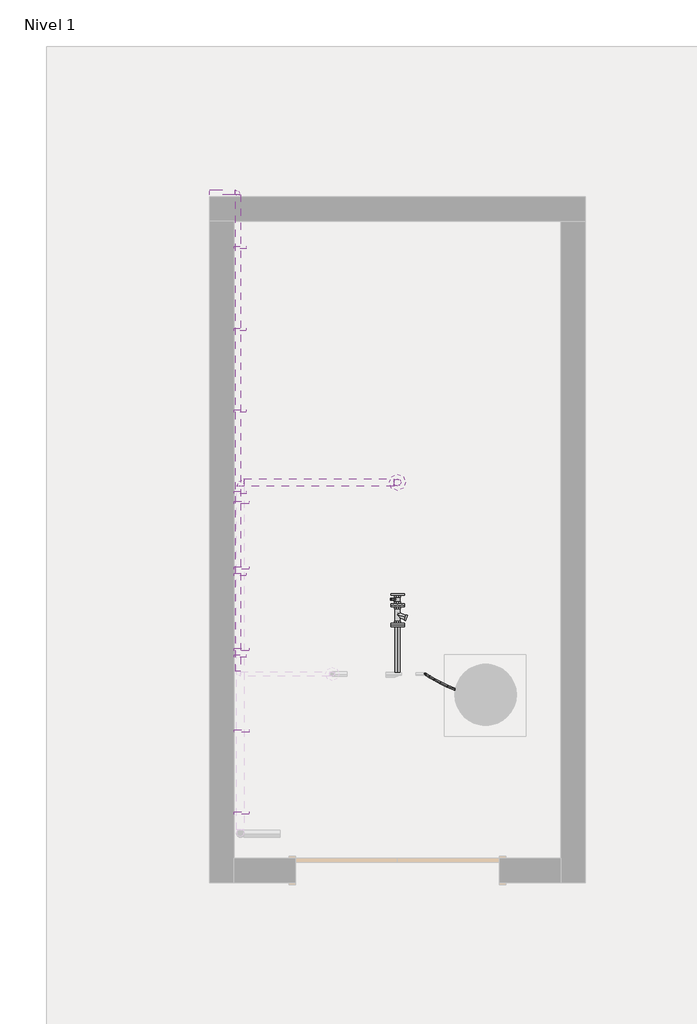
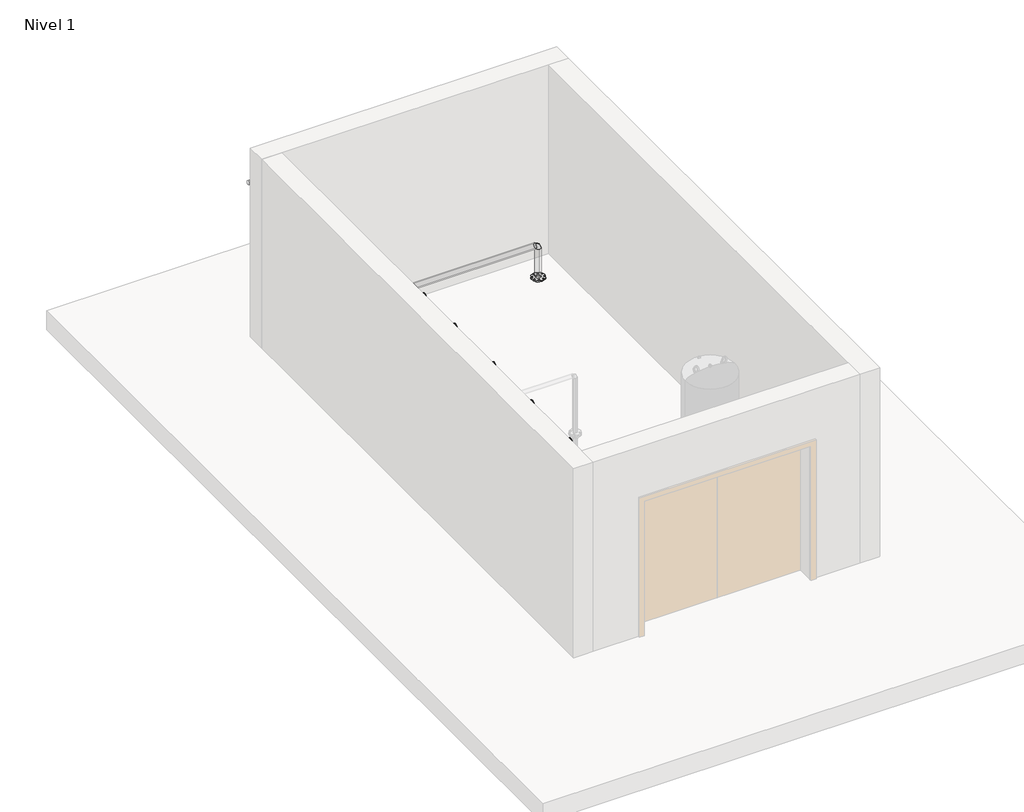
# One storey, part 2 of 2: 11 proxies, 8 pipe fittings, 8 pipe segments, 2 valves.
"""IFC4 building model written with IfcOpenShell, lengths in millimetres."""

from ifc_helpers import new_model, si_unit, point, frame, frame_2d, origin, place, context, project, spatial, circle_curve, ellipse_curve, trimmed, segment, composite_curve, outline, extrude, transform, mapped, element, save
from ifc_brep_helpers import plane_surface, cylinder_surface, advanced_brep
from components import generic_models_3b980cd4, generic_models_2fe8da2b, pipe_fitting_3f4206e3, pipe_fitting_36ea70a5, pipe_fitting_f94741dc, pipe_fitting_a088f956, pipe_fitting_55f5cc9a, pipe_fitting_80_mm_63556b00, brida_acero_dn_50_mm_4_tornillos_50_mm_0a0b1a1b, valve_1_31c7c6c1, valve_1_e48f4d86

model = new_model("IFC4")

# Units and contexts
model_context = context("Model", 3, world=origin())
ifc_project = project(units=[si_unit("LENGTHUNIT", "METRE", prefix="MILLI")], contexts=[model_context])

# Site, building, storey
site = spatial("IfcSite", under=ifc_project)
building = spatial("IfcBuilding", under=site)
storey = spatial("IfcBuildingStorey", under=building, Name="Nivel 1", Elevation=0.0)

# Proxies
placement = place(None, origin())
generic_models_shape = generic_models_3b980cd4(model_context)
element("IfcBuildingElementProxy", 1, Name="SUJECCIÓN DE TUBERÍA : SUJECCIÓN DE TUBERÍA D-50", ObjectType="SUJECCIÓN DE TUBERÍA : SUJECCIÓN DE TUBERÍA D-50", at=placement, inside=storey, context=model_context, shape_type="MappedRepresentation", body=[
    mapped(generic_models_shape, transform((-3338.4941846, 3063.2271959, 2383.1388859), x_axis=(0.0, 1.0000000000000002, 0.0), y_axis=(-1.0000000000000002, 0.0, 0.0), z_axis=(0.0, 0.0, 1.0))),
])
element("IfcBuildingElementProxy", 2, Name="SUJECCIÓN DE TUBERÍA : SUJECCIÓN DE TUBERÍA D-50", ObjectType="SUJECCIÓN DE TUBERÍA : SUJECCIÓN DE TUBERÍA D-50", at=placement, inside=storey, context=model_context, shape_type="MappedRepresentation", body=[
    mapped(generic_models_shape, transform((-3338.4941846, 4063.2271959, 2383.1388859), x_axis=(0.0, 1.0000000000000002, 0.0), y_axis=(-1.0000000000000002, 0.0, 0.0), z_axis=(0.0, 0.0, 1.0))),
])
element("IfcBuildingElementProxy", 3, Name="SUJECCIÓN DE TUBERÍA : SUJECCIÓN DE TUBERÍA D-50", ObjectType="SUJECCIÓN DE TUBERÍA : SUJECCIÓN DE TUBERÍA D-50", at=placement, inside=storey, context=model_context, shape_type="MappedRepresentation", body=[
    mapped(generic_models_shape, transform((-3338.4941846, 5063.2271959, 2383.1388859), x_axis=(0.0, 1.0000000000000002, 0.0), y_axis=(-1.0000000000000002, 0.0, 0.0), z_axis=(0.0, 0.0, 1.0))),
])
element("IfcBuildingElementProxy", 4, Name="SUJECCIÓN DE TUBERÍA : SUJECCIÓN DE TUBERÍA D-50", ObjectType="SUJECCIÓN DE TUBERÍA : SUJECCIÓN DE TUBERÍA D-50", at=placement, inside=storey, context=model_context, shape_type="MappedRepresentation", body=[
    mapped(generic_models_shape, transform((-3338.4941846, 6063.2271959, 2383.1388859), x_axis=(0.0, 1.0000000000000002, 0.0), y_axis=(-1.0000000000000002, 0.0, 0.0), z_axis=(0.0, 0.0, 1.0))),
])
element("IfcBuildingElementProxy", 5, Name="SUJECCIÓN DE TUBERÍA : SUJECCIÓN DE TUBERÍA D-50", ObjectType="SUJECCIÓN DE TUBERÍA : SUJECCIÓN DE TUBERÍA D-50", at=placement, inside=storey, context=model_context, shape_type="MappedRepresentation", body=[
    mapped(generic_models_shape, transform((-3338.4941846, 7063.2271959, 2383.1388859), x_axis=(0.0, 1.0000000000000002, 0.0), y_axis=(-1.0000000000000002, 0.0, 0.0), z_axis=(0.0, 0.0, 1.0))),
])
element("IfcBuildingElementProxy", 6, Name="SUJECCIÓN DE TUBERÍA : SUJECCIÓN DE TUBERÍA D-50", ObjectType="SUJECCIÓN DE TUBERÍA : SUJECCIÓN DE TUBERÍA D-50", at=placement, inside=storey, context=model_context, shape_type="MappedRepresentation", body=[
    mapped(generic_models_shape, transform((-3338.4941846, 8063.2271959, 2383.1388859), x_axis=(0.0, 1.0000000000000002, 0.0), y_axis=(-1.0000000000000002, 0.0, 0.0), z_axis=(0.0, 0.0, 1.0))),
])
generic_models_2_shape = generic_models_2fe8da2b(model_context)
element("IfcBuildingElementProxy", 7, Name="SUJECCIÓN DE TUBERÍA : SUJECCIÓN DE TUBERÍA D-50", ObjectType="SUJECCIÓN DE TUBERÍA : SUJECCIÓN DE TUBERÍA D-50", at=placement, inside=storey, context=model_context, shape_type="MappedRepresentation", body=[
    mapped(generic_models_2_shape, transform((-3300.1093807, 1143.2271959, 2736.7551063), x_axis=(0.0, 1.0000000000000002, 0.0), y_axis=(-1.0000000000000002, 0.0, 0.0), z_axis=(0.0, 0.0, 1.0))),
])
element("IfcBuildingElementProxy", 8, Name="SUJECCIÓN DE TUBERÍA : SUJECCIÓN DE TUBERÍA D-50", ObjectType="SUJECCIÓN DE TUBERÍA : SUJECCIÓN DE TUBERÍA D-50", at=placement, inside=storey, context=model_context, shape_type="MappedRepresentation", body=[
    mapped(generic_models_2_shape, transform((-3300.1093807, 2143.2271959, 2736.7551063), x_axis=(0.0, 1.0000000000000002, 0.0), y_axis=(-1.0000000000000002, 0.0, 0.0), z_axis=(0.0, 0.0, 1.0))),
])
element("IfcBuildingElementProxy", 9, Name="SUJECCIÓN DE TUBERÍA : SUJECCIÓN DE TUBERÍA D-50", ObjectType="SUJECCIÓN DE TUBERÍA : SUJECCIÓN DE TUBERÍA D-50", at=placement, inside=storey, context=model_context, shape_type="MappedRepresentation", body=[
    mapped(generic_models_2_shape, transform((-3300.1093807, 3143.2271959, 2736.7551063), x_axis=(0.0, 1.0000000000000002, 0.0), y_axis=(-1.0000000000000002, 0.0, 0.0), z_axis=(0.0, 0.0, 1.0))),
])
element("IfcBuildingElementProxy", 10, Name="SUJECCIÓN DE TUBERÍA : SUJECCIÓN DE TUBERÍA D-50", ObjectType="SUJECCIÓN DE TUBERÍA : SUJECCIÓN DE TUBERÍA D-50", at=placement, inside=storey, context=model_context, shape_type="MappedRepresentation", body=[
    mapped(generic_models_2_shape, transform((-3300.1093807, 4143.2271959, 2736.7551063), x_axis=(0.0, 1.0000000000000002, 0.0), y_axis=(-1.0000000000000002, 0.0, 0.0), z_axis=(0.0, 0.0, 1.0))),
])
element("IfcBuildingElementProxy", 11, Name="SUJECCIÓN DE TUBERÍA : SUJECCIÓN DE TUBERÍA D-50", ObjectType="SUJECCIÓN DE TUBERÍA : SUJECCIÓN DE TUBERÍA D-50", at=placement, inside=storey, context=model_context, shape_type="MappedRepresentation", body=[
    mapped(generic_models_2_shape, transform((-3300.1093807, 4943.2271959, 2736.7551063), x_axis=(0.0, 1.0000000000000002, 0.0), y_axis=(-1.0000000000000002, 0.0, 0.0), z_axis=(0.0, 0.0, 1.0))),
])

# Pipe fittings
pipe_fitting_shape = pipe_fitting_3f4206e3(model_context)
element("IfcPipeFitting", 12, ObjectType="M_Codo - Genérico : Estándar", at=placement, inside=storey, context=model_context, shape_type="MappedRepresentation", body=[
    mapped(pipe_fitting_shape, transform((-1226.867126, 5203.2271959, 2780.0), x_axis=(0.0, 0.0, 1.0), y_axis=(-1.0, 0.0, 0.0), z_axis=(0.0, -1.0, 0.0))),
])
element("IfcPipeFitting", 13, ObjectType="M_Codo - Genérico : Estándar", at=placement, inside=storey, context=model_context, shape_type="MappedRepresentation", body=[
    mapped(pipe_fitting_shape, transform((-3151.867126, 5203.2271959, 2780.0), x_axis=(-1.0, 0.0, 0.0), y_axis=(0.0, -1.0, 0.0), z_axis=(0.0, 0.0, 1.0))),
])
pipe_fitting_2_shape = pipe_fitting_36ea70a5(model_context)
element("IfcPipeFitting", 14, ObjectType="M_Codo - Genérico : Estándar", at=placement, inside=storey, context=model_context, shape_type="MappedRepresentation", body=[
    mapped(pipe_fitting_2_shape, transform((-3181.867126, 8758.2242167, 2414.0), x_axis=(0.0, 1.0, 0.0), y_axis=(-1.0, 0.0, 0.0), z_axis=(0.0, 0.0, 1.0))),
])
pipe_fitting_3_shape = pipe_fitting_f94741dc(model_context)
element("IfcPipeFitting", 15, ObjectType="M_Transición - Genérica : Estándar", at=placement, inside=storey, context=model_context, shape_type="MappedRepresentation", body=[
    mapped(pipe_fitting_3_shape, transform((-146.867126, 2603.2271959, 775.0), x_axis=(0.0, 0.0, 1.0), y_axis=(-1.0, 0.0, 0.0), z_axis=(0.0, -1.0, 0.0))),
])
pipe_fitting_4_shape = pipe_fitting_a088f956(model_context)
element("IfcPipeFitting", 16, ObjectType="M_Codo - Genérico : Estándar", at=placement, inside=storey, context=model_context, shape_type="MappedRepresentation", body=[
    mapped(pipe_fitting_4_shape, transform((-146.867126, 2603.2271959, 695.0), x_axis=(0.0, 0.0, -1.0), y_axis=(-1.0, 0.0, 0.0), z_axis=(0.0, 1.0, 0.0))),
])
pipe_fitting_5_shape = pipe_fitting_55f5cc9a(model_context)
element("IfcPipeFitting", 17, ObjectType="M_Transición - Genérica : Estándar", at=placement, inside=storey, context=model_context, shape_type="MappedRepresentation", body=[
    mapped(pipe_fitting_5_shape, transform((-255.3253371, 2603.2271959, 695.0), x_axis=(-1.0, 0.0, 0.0), y_axis=(0.0, -1.0, 0.0), z_axis=(0.0, 0.0, 1.0))),
])
pipe_fitting_80_mm_shape = pipe_fitting_80_mm_63556b00(model_context)
element("IfcPipeFitting", 18, ObjectType="BRIDA ACERO  DN_80 : 80 mm", at=placement, inside=storey, context=model_context, shape_type="MappedRepresentation", body=[
    mapped(pipe_fitting_80_mm_shape, transform((-1226.867126, 5203.2271959, 2280.0), x_axis=(0.0, 0.0, -1.0), y_axis=(0.0, 1.0, 0.0), z_axis=(1.0, 0.0, 0.0))),
])
brida_acero_dn_50_mm_4_tornillos_50_mm_shape = brida_acero_dn_50_mm_4_tornillos_50_mm_0a0b1a1b(model_context)
element("IfcPipeFitting", 19, ObjectType="BRIDA ACERO DN 50 mm 4 tornillos : 50 mm", at=placement, inside=storey, context=model_context, shape_type="MappedRepresentation", body=[
    mapped(brida_acero_dn_50_mm_4_tornillos_50_mm_shape, transform((-1226.867126, 3438.5841177, 160.0), x_axis=(0.0, 1.0, 0.0), y_axis=(-1.0, 0.0, 0.0), z_axis=(0.0, 0.0, 1.0))),
])

# Pipe segments
element("IfcPipeSegment", 20, ObjectType="ACERO INOX", at=placement, inside=storey, context=model_context, shape_type="SweptSolid", body=[
    extrude(outline(composite_curve([segment(trimmed(circle_curve(frame_2d((-1226.867126, 5203.2271959)), 44.45), [point((-1271.317126, 5203.2271959))], [point((-1226.867126, 5247.6771959))], False, "CARTESIAN"), True, "CONTINUOUS"), segment(trimmed(circle_curve(frame_2d((-1226.867126, 5203.2271959)), 44.45), [point((-1226.867126, 5247.6771959))], [point((-1182.417126, 5203.2271959))], False, "CARTESIAN"), True, "CONTINUOUS"), segment(trimmed(circle_curve(frame_2d((-1226.867126, 5203.2271959)), 44.45), [point((-1182.417126, 5203.2271959))], [point((-1226.867126, 5158.7771959))], False, "CARTESIAN"), True, "CONTINUOUS"), segment(trimmed(circle_curve(frame_2d((-1226.867126, 5203.2271959)), 44.45), [point((-1226.867126, 5158.7771959))], [point((-1271.317126, 5203.2271959))], False, "CARTESIAN"), True, "CONTINUOUS")], self_intersect=False)), frame((0.0, 0.0, 2280.0), z_axis=(0.0, 0.0, 1.0), x_axis=(1.0, 0.0, 0.0)), (0.0, 0.0, 1.0), 453.9625),
])
element("IfcPipeSegment", 21, ObjectType="ACERO INOX", at=placement, inside=storey, context=model_context, shape_type="SweptSolid", body=[
    extrude(outline(composite_curve([segment(trimmed(circle_curve(frame_2d((5203.2271959, 2780.0)), 44.45), [point((5247.6771959, 2780.0))], [point((5203.2271959, 2735.55))], False, "CARTESIAN"), True, "CONTINUOUS"), segment(trimmed(circle_curve(frame_2d((5203.2271959, 2780.0)), 44.45), [point((5203.2271959, 2735.55))], [point((5158.7771959, 2780.0))], False, "CARTESIAN"), True, "CONTINUOUS"), segment(trimmed(circle_curve(frame_2d((5203.2271959, 2780.0)), 44.45), [point((5158.7771959, 2780.0))], [point((5203.2271959, 2824.45))], False, "CARTESIAN"), True, "CONTINUOUS"), segment(trimmed(circle_curve(frame_2d((5203.2271959, 2780.0)), 44.45), [point((5203.2271959, 2824.45))], [point((5247.6771959, 2780.0))], False, "CARTESIAN"), True, "CONTINUOUS")], self_intersect=False)), frame((-3105.829626, 0.0, 0.0), z_axis=(1.0, 0.0, 0.0), x_axis=(0.0, 1.0, 0.0)), (0.0, 0.0, 1.0), 1832.925),
])
element("IfcPipeSegment", 22, ObjectType="ACERO INOX", at=placement, inside=storey, context=model_context, shape_type="SweptSolid", body=[
    extrude(outline(composite_curve([segment(trimmed(circle_curve(frame_2d((160.0, -1226.867126)), 30.1625), [point((160.0, -1257.029626))], [point((129.8375, -1226.867126))], False, "CARTESIAN"), True, "CONTINUOUS"), segment(trimmed(circle_curve(frame_2d((160.0, -1226.867126)), 30.1625), [point((129.8375, -1226.867126))], [point((160.0, -1196.704626))], False, "CARTESIAN"), True, "CONTINUOUS"), segment(trimmed(circle_curve(frame_2d((160.0, -1226.867126)), 30.1625), [point((160.0, -1196.704626))], [point((190.1625, -1226.867126))], False, "CARTESIAN"), True, "CONTINUOUS"), segment(trimmed(circle_curve(frame_2d((160.0, -1226.867126)), 30.1625), [point((190.1625, -1226.867126))], [point((160.0, -1257.029626))], False, "CARTESIAN"), True, "CONTINUOUS")], self_intersect=False)), frame((0.0, 2881.5617167, 0.0), z_axis=(0.0, 1.0, 0.0), x_axis=(0.0, 0.0, 1.0)), (0.0, 0.0, 1.0), 557.022401),
])
element("IfcPipeSegment", 23, ObjectType="ACERO INOX", at=placement, inside=storey, context=model_context, shape_type="SweptSolid", body=[
    extrude(outline(composite_curve([segment(trimmed(circle_curve(frame_2d((2414.0, -3181.867126)), 30.1625), [point((2414.0, -3151.704626))], [point((2444.1625, -3181.867126))], False, "CARTESIAN"), True, "CONTINUOUS"), segment(trimmed(circle_curve(frame_2d((2414.0, -3181.867126)), 30.1625), [point((2444.1625, -3181.867126))], [point((2414.0, -3212.029626))], False, "CARTESIAN"), True, "CONTINUOUS"), segment(trimmed(circle_curve(frame_2d((2414.0, -3181.867126)), 30.1625), [point((2414.0, -3212.029626))], [point((2383.8375, -3181.867126))], False, "CARTESIAN"), True, "CONTINUOUS"), segment(trimmed(circle_curve(frame_2d((2414.0, -3181.867126)), 30.1625), [point((2383.8375, -3181.867126))], [point((2414.0, -3151.704626))], False, "CARTESIAN"), True, "CONTINUOUS")], self_intersect=False)), frame((0.0, 2891.5617167, 0.0), z_axis=(0.0, 1.0, 0.0), x_axis=(0.0, 0.0, 1.0)), (0.0, 0.0, 1.0), 5833.325),
])
element("IfcPipeSegment", 24, ObjectType="ACERO INOX", at=placement, inside=storey, context=model_context, shape_type="SweptSolid", body=[
    extrude(outline(composite_curve([segment(trimmed(circle_curve(frame_2d((8758.2242167, 2414.0)), 30.1625), [point((8788.3867167, 2414.0))], [point((8758.2242167, 2383.8375))], False, "CARTESIAN"), True, "CONTINUOUS"), segment(trimmed(circle_curve(frame_2d((8758.2242167, 2414.0)), 30.1625), [point((8758.2242167, 2383.8375))], [point((8728.0617167, 2414.0))], False, "CARTESIAN"), True, "CONTINUOUS"), segment(trimmed(circle_curve(frame_2d((8758.2242167, 2414.0)), 30.1625), [point((8728.0617167, 2414.0))], [point((8758.2242167, 2444.1625))], False, "CARTESIAN"), True, "CONTINUOUS"), segment(trimmed(circle_curve(frame_2d((8758.2242167, 2414.0)), 30.1625), [point((8758.2242167, 2444.1625))], [point((8788.3867167, 2414.0))], False, "CARTESIAN"), True, "CONTINUOUS")], self_intersect=False)), frame((-3526.867126, 0.0, 0.0), z_axis=(1.0, 0.0, 0.0), x_axis=(0.0, 1.0, 0.0)), (0.0, 0.0, 1.0), 311.6625),
])
element("IfcPipeSegment", 25, ObjectType="ACERO INOX", at=placement, inside=storey, context=model_context, shape_type="SweptSolid", body=[
    extrude(outline(composite_curve([segment(trimmed(circle_curve(frame_2d((-146.867126, 2603.2271959)), 10.668), [point((-136.199126, 2603.2271959))], [point((-146.867126, 2592.5591959))], False, "CARTESIAN"), True, "CONTINUOUS"), segment(trimmed(circle_curve(frame_2d((-146.867126, 2603.2271959)), 10.668), [point((-146.867126, 2592.5591959))], [point((-157.535126, 2603.2271959))], False, "CARTESIAN"), True, "CONTINUOUS"), segment(trimmed(circle_curve(frame_2d((-146.867126, 2603.2271959)), 10.668), [point((-157.535126, 2603.2271959))], [point((-146.867126, 2613.8951959))], False, "CARTESIAN"), True, "CONTINUOUS"), segment(trimmed(circle_curve(frame_2d((-146.867126, 2603.2271959)), 10.668), [point((-146.867126, 2613.8951959))], [point((-136.199126, 2603.2271959))], False, "CARTESIAN"), True, "CONTINUOUS")], self_intersect=False)), frame((0.0, 0.0, 709.2875), z_axis=(0.0, 0.0, 1.0), x_axis=(1.0, 0.0, 0.0)), (0.0, 0.0, 1.0), 65.7125),
])
element("IfcPipeSegment", 26, ObjectType="ACERO INOX", at=placement, inside=storey, context=model_context, shape_type="SweptSolid", body=[
    extrude(outline(composite_curve([segment(trimmed(circle_curve(frame_2d((2603.2271959, 695.0)), 10.668), [point((2613.8951959, 695.0))], [point((2603.2271959, 684.332))], False, "CARTESIAN"), True, "CONTINUOUS"), segment(trimmed(circle_curve(frame_2d((2603.2271959, 695.0)), 10.668), [point((2603.2271959, 684.332))], [point((2592.5591959, 695.0))], False, "CARTESIAN"), True, "CONTINUOUS"), segment(trimmed(circle_curve(frame_2d((2603.2271959, 695.0)), 10.668), [point((2592.5591959, 695.0))], [point((2603.2271959, 705.668))], False, "CARTESIAN"), True, "CONTINUOUS"), segment(trimmed(circle_curve(frame_2d((2603.2271959, 695.0)), 10.668), [point((2603.2271959, 705.668))], [point((2613.8951959, 695.0))], False, "CARTESIAN"), True, "CONTINUOUS")], self_intersect=False)), frame((-255.3253371, 0.0, 0.0), z_axis=(1.0, 0.0, 0.0), x_axis=(0.0, 1.0, 0.0)), (0.0, 0.0, 1.0), 94.1707112),
])
element("IfcPipeSegment", 27, ObjectType="Flex - Redondo", at=placement, inside=storey, context=model_context, shape_type="AdvancedBrep", body=[
    advanced_brep(
    [(-263.8015208, 2590.7984139, 695.0), (-262.979236, 2603.2818866, 682.5105342), (-261.1366535, 2615.6559778, 695.0), (-261.9589383, 2603.1725051, 707.4894658), (-346.300171, 2599.6427224, 698.408496), (-344.8136521, 2612.0549855, 685.8915868), (-341.7780362, 2624.301177, 698.3317616), (-343.2645551, 2611.8889138, 710.8486707), (-893.3935963, 2847.5632981, 574.0), (-897.5280446, 2864.750687, 574.0), (-880.3406557, 2868.8851353, 574.0), (-876.2062074, 2851.6977464, 574.0), (-437.1173259, 2623.4648521, 706.2134332), (-434.4317608, 2635.562595, 693.5934765), (-429.6506484, 2647.3509276, 705.8836411), (-432.3362135, 2635.2531847, 718.5035978), (-530.533786, 2657.7375783, 714.6364716), (-526.7571179, 2669.4350163, 701.9181339), (-521.1968485, 2680.9374909, 714.1380447), (-524.9735166, 2669.2400529, 726.8563824), (-622.1586406, 2698.2488483, 720.0255041), (-617.1901524, 2709.4193316, 707.237068), (-611.530706, 2720.8779558, 719.4511456), (-616.4991942, 2709.7074726, 732.2395816), (-707.4749794, 2740.8116115, 718.7337215), (-700.9749376, 2751.2180306, 705.9684748), (-695.8922904, 2762.9644095, 718.173819), (-702.3923322, 2752.5579903, 730.9390657), (-781.902101, 2781.236802, 707.1082574), (-773.1509575, 2790.4205322, 694.6946313), (-769.5854619, 2802.9909539, 706.6629974), (-778.3366055, 2793.8072237, 719.0766236), (-840.8058985, 2815.3173905, 681.4951181), (-828.5972151, 2822.5006556, 670.5849341), (-827.9674865, 2836.7696548, 681.2767407), (-840.1761699, 2829.5863898, 692.1869247), (-879.4973981, 2838.8166436, 638.2995183), (-863.4424968, 2843.6639111, 631.6832926), (-866.450497, 2860.1422822, 638.3139002), (-882.5053983, 2855.2950146, 644.9301259), (-893.3935963, 2847.5632981, 577.0713435), (-876.2062074, 2851.6977464, 575.4449825), (-880.3406557, 2868.8851353, 577.1123361), (-897.5280446, 2864.750687, 578.7386971)],
    [
        (0, 1, circle_curve(frame((-262.4690871, 2603.2271959, 695.0), z_axis=(0.9934646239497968, -0.10650486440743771, -0.04104576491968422), x_axis=(-0.10659469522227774, -0.9943025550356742, 0.0)), 12.5)),
        (1, 2, circle_curve(frame((-262.4690871, 2603.2271959, 695.0), z_axis=(0.9934646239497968, -0.10650486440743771, -0.04104576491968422), x_axis=(-0.10659469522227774, -0.9943025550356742, 0.0)), 12.5)),
        (2, 3, circle_curve(frame((-262.4690871, 2603.2271959, 695.0), z_axis=(0.9934646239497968, -0.10650486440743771, -0.04104576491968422), x_axis=(-0.10659469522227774, -0.9943025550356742, 0.0)), 12.5)),
        (3, 0, circle_curve(frame((-262.4690871, 2603.2271959, 695.0), z_axis=(0.9934646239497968, -0.10650486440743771, -0.04104576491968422), x_axis=(-0.10659469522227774, -0.9943025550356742, 0.0)), 12.5)),
        (0, 4),
        (4, 5, ellipse_curve(frame((-344.0391036, 2611.9719497, 698.3701288), z_axis=(0.9816618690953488, -0.18022114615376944, -0.062131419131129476), x_axis=(0.19036470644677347, 0.9439687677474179, 0.26960015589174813)), 12.537726, 12.5)),
        (5, 1),
        (5, 6, ellipse_curve(frame((-344.0391036, 2611.9719497, 698.3701288), z_axis=(0.9816618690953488, -0.18022114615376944, -0.062131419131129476), x_axis=(0.19036470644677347, 0.9439687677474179, 0.26960015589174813)), 12.537726, 12.5)),
        (6, 2),
        (6, 7, ellipse_curve(frame((-344.0391036, 2611.9719497, 698.3701288), z_axis=(0.9816618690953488, -0.18022114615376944, -0.062131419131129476), x_axis=(0.19036470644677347, 0.9439687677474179, 0.26960015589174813)), 12.537726, 12.5)),
        (7, 3),
        (7, 4, ellipse_curve(frame((-344.0391036, 2611.9719497, 698.3701288), z_axis=(0.9816618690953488, -0.18022114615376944, -0.062131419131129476), x_axis=(0.19036470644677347, 0.9439687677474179, 0.26960015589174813)), 12.537726, 12.5)),
        (8, 9, circle_curve(frame((-886.867126, 2858.2242167, 574.0), z_axis=(0.0, 0.0, -1.0), x_axis=(-0.5221176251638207, -0.8528734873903, 0.0)), 12.5)),
        (9, 10, circle_curve(frame((-886.867126, 2858.2242167, 574.0), z_axis=(0.0, 0.0, -1.0), x_axis=(-0.5221176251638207, -0.8528734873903, 0.0)), 12.5)),
        (10, 11, circle_curve(frame((-886.867126, 2858.2242167, 574.0), z_axis=(0.0, 0.0, -1.0), x_axis=(-0.5221176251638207, -0.8528734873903, 0.0)), 12.5)),
        (11, 8, circle_curve(frame((-886.867126, 2858.2242167, 574.0), z_axis=(0.0, 0.0, -1.0), x_axis=(-0.5221176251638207, -0.8528734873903, 0.0)), 12.5)),
        (4, 12),
        (12, 13, ellipse_curve(frame((-433.3839872, 2635.4078899, 706.0485371), z_axis=(0.9507760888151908, -0.29836372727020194, -0.08368939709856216), x_axis=(0.3006485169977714, 0.9536028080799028, 0.015879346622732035)), 12.5140504, 12.5)),
        (13, 5),
        (13, 14, ellipse_curve(frame((-433.3839872, 2635.4078899, 706.0485371), z_axis=(0.9507760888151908, -0.29836372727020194, -0.08368939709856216), x_axis=(0.3006485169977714, 0.9536028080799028, 0.015879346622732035)), 12.5140504, 12.5)),
        (14, 6),
        (14, 15, ellipse_curve(frame((-433.3839872, 2635.4078899, 706.0485371), z_axis=(0.9507760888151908, -0.29836372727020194, -0.08368939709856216), x_axis=(0.3006485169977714, 0.9536028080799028, 0.015879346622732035)), 12.5140504, 12.5)),
        (15, 7),
        (15, 12, ellipse_curve(frame((-433.3839872, 2635.4078899, 706.0485371), z_axis=(0.9507760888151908, -0.29836372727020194, -0.08368939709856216), x_axis=(0.3006485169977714, 0.9536028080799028, 0.015879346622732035)), 12.5140504, 12.5)),
        (12, 16),
        (16, 17, ellipse_curve(frame((-525.8653172, 2669.3375346, 714.3872582), z_axis=(0.9249583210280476, -0.3737387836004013, -0.06907550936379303), x_axis=(0.310721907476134, 0.8482595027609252, -0.42884462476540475)), 12.50798, 12.5)),
        (17, 13),
        (17, 18, ellipse_curve(frame((-525.8653172, 2669.3375346, 714.3872582), z_axis=(0.9249583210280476, -0.3737387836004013, -0.06907550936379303), x_axis=(0.310721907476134, 0.8482595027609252, -0.42884462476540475)), 12.50798, 12.5)),
        (18, 14),
        (18, 19, ellipse_curve(frame((-525.8653172, 2669.3375346, 714.3872582), z_axis=(0.9249583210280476, -0.3737387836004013, -0.06907550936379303), x_axis=(0.310721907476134, 0.8482595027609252, -0.42884462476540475)), 12.50798, 12.5)),
        (19, 15),
        (19, 16, ellipse_curve(frame((-525.8653172, 2669.3375346, 714.3872582), z_axis=(0.9249583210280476, -0.3737387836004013, -0.06907550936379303), x_axis=(0.310721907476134, 0.8482595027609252, -0.42884462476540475)), 12.50798, 12.5)),
        (16, 20),
        (20, 21, ellipse_curve(frame((-616.8446733, 2709.5634021, 719.7383248), z_axis=(0.90476365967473, -0.4254393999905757, -0.02010067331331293), x_axis=(0.22666378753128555, 0.5209185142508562, -0.8229625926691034)), 12.5104508, 12.5)),
        (21, 17),
        (21, 22, ellipse_curve(frame((-616.8446733, 2709.5634021, 719.7383248), z_axis=(0.90476365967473, -0.4254393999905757, -0.02010067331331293), x_axis=(0.22666378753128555, 0.5209185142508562, -0.8229625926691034)), 12.5104508, 12.5)),
        (22, 18),
        (22, 23, ellipse_curve(frame((-616.8446733, 2709.5634021, 719.7383248), z_axis=(0.90476365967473, -0.4254393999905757, -0.02010067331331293), x_axis=(0.22666378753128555, 0.5209185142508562, -0.8229625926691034)), 12.5104508, 12.5)),
        (23, 19),
        (23, 20, ellipse_curve(frame((-616.8446733, 2709.5634021, 719.7383248), z_axis=(0.90476365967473, -0.4254393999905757, -0.02010067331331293), x_axis=(0.22666378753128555, 0.5209185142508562, -0.8229625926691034)), 12.5104508, 12.5)),
        (20, 24),
        (24, 25, ellipse_curve(frame((-701.6836349, 2751.8880105, 718.4537702), z_axis=(0.8844649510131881, -0.46055290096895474, 0.074918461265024), x_axis=(0.18939502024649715, 0.20760658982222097, -0.9597025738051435)), 12.5255094, 12.5)),
        (25, 21),
        (25, 26, ellipse_curve(frame((-701.6836349, 2751.8880105, 718.4537702), z_axis=(0.8844649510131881, -0.46055290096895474, 0.074918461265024), x_axis=(0.18939502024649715, 0.20760658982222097, -0.9597025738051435)), 12.5255094, 12.5)),
        (26, 22),
        (26, 27, ellipse_curve(frame((-701.6836349, 2751.8880105, 718.4537702), z_axis=(0.8844649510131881, -0.46055290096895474, 0.074918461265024), x_axis=(0.18939502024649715, 0.20760658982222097, -0.9597025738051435)), 12.5255094, 12.5)),
        (27, 23),
        (27, 24, ellipse_curve(frame((-701.6836349, 2751.8880105, 718.4537702), z_axis=(0.8844649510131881, -0.46055290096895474, 0.074918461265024), x_axis=(0.18939502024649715, 0.20760658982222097, -0.9597025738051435)), 12.5255094, 12.5)),
        (24, 28),
        (28, 29, ellipse_curve(frame((-775.7437815, 2792.113878, 706.8856274), z_axis=(0.845684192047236, -0.47377619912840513, 0.24567124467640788), x_axis=(0.26934223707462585, -0.018511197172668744, -0.9628666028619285)), 12.5795783, 12.5)),
        (29, 25),
        (29, 30, ellipse_curve(frame((-775.7437815, 2792.113878, 706.8856274), z_axis=(0.845684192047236, -0.47377619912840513, 0.24567124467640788), x_axis=(0.26934223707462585, -0.018511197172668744, -0.9628666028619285)), 12.5795783, 12.5)),
        (30, 26),
        (30, 31, ellipse_curve(frame((-775.7437815, 2792.113878, 706.8856274), z_axis=(0.845684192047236, -0.47377619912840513, 0.24567124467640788), x_axis=(0.26934223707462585, -0.018511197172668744, -0.9628666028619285)), 12.5795783, 12.5)),
        (31, 27),
        (31, 28, ellipse_curve(frame((-775.7437815, 2792.113878, 706.8856274), z_axis=(0.845684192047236, -0.47377619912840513, 0.24567124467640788), x_axis=(0.26934223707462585, -0.018511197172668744, -0.9628666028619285)), 12.5795783, 12.5)),
        (28, 32),
        (32, 33, ellipse_curve(frame((-834.3866925, 2826.0435227, 681.3859294), z_axis=(0.728928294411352, -0.43082157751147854, 0.5320303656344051), x_axis=(0.4796942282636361, -0.2330320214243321, -0.8459252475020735)), 12.757331, 12.5)),
        (33, 29),
        (33, 34, ellipse_curve(frame((-834.3866925, 2826.0435227, 681.3859294), z_axis=(0.728928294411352, -0.43082157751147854, 0.5320303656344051), x_axis=(0.4796942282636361, -0.2330320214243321, -0.8459252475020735)), 12.757331, 12.5)),
        (34, 30),
        (34, 35, ellipse_curve(frame((-834.3866925, 2826.0435227, 681.3859294), z_axis=(0.728928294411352, -0.43082157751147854, 0.5320303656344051), x_axis=(0.4796942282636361, -0.2330320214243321, -0.8459252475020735)), 12.757331, 12.5)),
        (35, 31),
        (35, 32, ellipse_curve(frame((-834.3866925, 2826.0435227, 681.3859294), z_axis=(0.728928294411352, -0.43082157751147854, 0.5320303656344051), x_axis=(0.4796942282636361, -0.2330320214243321, -0.8459252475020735)), 12.757331, 12.5)),
        (32, 36),
        (36, 37, ellipse_curve(frame((-872.9739475, 2849.4794629, 638.3067093), z_axis=(0.4349460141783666, -0.2666774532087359, 0.8600611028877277), x_axis=(0.7390655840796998, -0.43990940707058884, -0.5101585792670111)), 12.9822963, 12.5)),
        (37, 33),
        (37, 38, ellipse_curve(frame((-872.9739475, 2849.4794629, 638.3067093), z_axis=(0.4349460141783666, -0.2666774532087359, 0.8600611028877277), x_axis=(0.7390655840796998, -0.43990940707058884, -0.5101585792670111)), 12.9822963, 12.5)),
        (38, 34),
        (38, 39, ellipse_curve(frame((-872.9739475, 2849.4794629, 638.3067093), z_axis=(0.4349460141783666, -0.2666774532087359, 0.8600611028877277), x_axis=(0.7390655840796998, -0.43990940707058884, -0.5101585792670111)), 12.9822963, 12.5)),
        (39, 35),
        (39, 36, ellipse_curve(frame((-872.9739475, 2849.4794629, 638.3067093), z_axis=(0.4349460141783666, -0.2666774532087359, 0.8600611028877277), x_axis=(0.7390655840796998, -0.43990940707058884, -0.5101585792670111)), 12.9822963, 12.5)),
        (36, 40),
        (40, 41, ellipse_curve(frame((-886.867126, 2858.2242167, 577.0918398), z_axis=(0.11055325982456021, -0.06958530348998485, 0.9914312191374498), x_axis=(0.8390579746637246, -0.5281264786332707, -0.13062977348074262)), 12.6080355, 12.5)),
        (41, 37),
        (41, 42, ellipse_curve(frame((-886.867126, 2858.2242167, 577.0918398), z_axis=(0.11055325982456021, -0.06958530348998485, 0.9914312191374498), x_axis=(0.8390579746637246, -0.5281264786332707, -0.13062977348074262)), 12.6080355, 12.5)),
        (42, 38),
        (42, 43, ellipse_curve(frame((-886.867126, 2858.2242167, 577.0918398), z_axis=(0.11055325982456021, -0.06958530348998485, 0.9914312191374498), x_axis=(0.8390579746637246, -0.5281264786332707, -0.13062977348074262)), 12.6080355, 12.5)),
        (43, 39),
        (43, 40, ellipse_curve(frame((-886.867126, 2858.2242167, 577.0918398), z_axis=(0.11055325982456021, -0.06958530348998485, 0.9914312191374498), x_axis=(0.8390579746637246, -0.5281264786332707, -0.13062977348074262)), 12.6080355, 12.5)),
        (40, 8),
        (11, 41),
        (10, 42),
        (9, 43),
    ],
    [
        plane_surface(frame((-262.4690871, 2598.7321016, 706.6637956), z_axis=(0.9934646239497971, -0.10650486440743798, -0.041045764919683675), x_axis=(0.11414044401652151, 0.9270054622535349, 0.35725737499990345))),
        cylinder_surface(frame((-262.4690871, 2603.2271959, 695.0), z_axis=(0.9934646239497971, -0.10650486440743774, -0.04104576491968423), x_axis=(-0.10659469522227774, -0.9943025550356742, 0.0)), 12.5),
        plane_surface(frame((-886.867126, 2845.7242167, 574.0), z_axis=(0.0, 0.0, -1.0), x_axis=(-1.0, 0.0, 0.0))),
        cylinder_surface(frame((-344.0391036, 2611.9719497, 698.3701288), z_axis=(0.963951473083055, -0.252852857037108, -0.08284316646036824), x_axis=(-0.2529691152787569, -0.967429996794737, 0.009264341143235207)), 12.5),
        cylinder_surface(frame((-433.3839872, 2635.4078899, 706.0485371), z_axis=(0.9354656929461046, -0.3432046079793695, -0.08434769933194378), x_axis=(-0.34301465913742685, -0.9391727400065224, 0.017190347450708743)), 12.5),
        cylinder_surface(frame((-525.8653172, 2669.3375346, 714.3872582), z_axis=(0.9132707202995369, -0.40379607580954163, -0.05371518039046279), x_axis=(-0.4032175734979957, -0.9148471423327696, 0.02168627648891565)), 12.5),
        cylinder_surface(frame((-616.8446733, 2709.5634021, 719.7383248), z_axis=(0.8947449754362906, -0.44637192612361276, 0.0135474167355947), x_axis=(-0.4465729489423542, -0.894460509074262, 0.022649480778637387)), 12.5),
        cylinder_surface(frame((-701.6836349, 2751.8880105, 718.4537702), z_axis=(0.8705823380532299, -0.47285795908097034, 0.13598434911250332), x_axis=(-0.4795902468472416, -0.877267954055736, 0.019852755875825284)), 12.5),
        cylinder_surface(frame((-775.7437815, 2792.113878, 706.8856274), z_axis=(0.8100864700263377, -0.4687002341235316, 0.3522499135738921), x_axis=(-0.504832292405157, -0.8631266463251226, 0.01251994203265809)), 12.5),
        cylinder_surface(frame((-834.3866925, 2826.0435227, 681.3859294), z_axis=(0.6183633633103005, -0.37556252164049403, 0.6903474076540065), x_axis=(-0.5201806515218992, -0.8540552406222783, 0.0013174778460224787)), 12.5),
        cylinder_surface(frame((-872.9739475, 2849.4794629, 638.3067093), z_axis=(0.21921190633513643, -0.13797808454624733, 0.9658717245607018), x_axis=(-0.5224770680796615, -0.8526472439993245, -0.0032234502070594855)), 12.5),
        cylinder_surface(frame((-886.867126, 2858.2242167, 577.0918398), z_axis=(0.0, 0.0, 1.0), x_axis=(-0.5221176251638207, -0.8528734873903, 0.0)), 12.5),
    ],
    [
        (0, [[1, 2, 3, 4]]),
        (1, [[-1, 5, 6, 7]]),
        (1, [[-2, -7, 8, 9]]),
        (1, [[-3, -9, 10, 11]]),
        (1, [[-4, -11, 12, -5]]),
        (2, [[13, 14, 15, 16]]),
        (3, [[-6, 17, 18, 19]]),
        (3, [[-8, -19, 20, 21]]),
        (3, [[-10, -21, 22, 23]]),
        (3, [[-12, -23, 24, -17]]),
        (4, [[-18, 25, 26, 27]]),
        (4, [[-20, -27, 28, 29]]),
        (4, [[-22, -29, 30, 31]]),
        (4, [[-24, -31, 32, -25]]),
        (5, [[-26, 33, 34, 35]]),
        (5, [[-28, -35, 36, 37]]),
        (5, [[-30, -37, 38, 39]]),
        (5, [[-32, -39, 40, -33]]),
        (6, [[-34, 41, 42, 43]]),
        (6, [[-36, -43, 44, 45]]),
        (6, [[-38, -45, 46, 47]]),
        (6, [[-40, -47, 48, -41]]),
        (7, [[-42, 49, 50, 51]]),
        (7, [[-44, -51, 52, 53]]),
        (7, [[-46, -53, 54, 55]]),
        (7, [[-48, -55, 56, -49]]),
        (8, [[-50, 57, 58, 59]]),
        (8, [[-52, -59, 60, 61]]),
        (8, [[-54, -61, 62, 63]]),
        (8, [[-56, -63, 64, -57]]),
        (9, [[-58, 65, 66, 67]]),
        (9, [[-60, -67, 68, 69]]),
        (9, [[-62, -69, 70, 71]]),
        (9, [[-64, -71, 72, -65]]),
        (10, [[-66, 73, 74, 75]]),
        (10, [[-68, -75, 76, 77]]),
        (10, [[-70, -77, 78, 79]]),
        (10, [[-72, -79, 80, -73]]),
        (11, [[-74, 81, -16, 82]]),
        (11, [[-76, -82, -15, 83]]),
        (11, [[-78, -83, -14, 84]]),
        (11, [[-80, -84, -13, -81]]),
    ],
),
])

# Valves
valve_1_shape = valve_1_31c7c6c1(model_context)
element("IfcValve", 28, ObjectType="FILTRO BRIDADO DN_50 : 1", at=placement, inside=storey, context=model_context, shape_type="MappedRepresentation", body=[
    mapped(valve_1_shape, transform((-1226.867126, 3579.5841177, 160.0), x_axis=(0.0, -1.0, 0.0), y_axis=(1.0, 0.0, 0.0), z_axis=(0.0, 0.0, 1.0))),
])
valve_1_2_shape = valve_1_e48f4d86(model_context)
element("IfcValve", 29, ObjectType="LLAVE BRIDADA DN_50 : 1", at=placement, inside=storey, context=model_context, shape_type="MappedRepresentation", body=[
    mapped(valve_1_2_shape, transform((-1226.867126, 3771.5841177, 160.0), x_axis=(0.0, -1.0, 0.0), y_axis=(-1.0, 0.0, 0.0), z_axis=(0.0, 0.0, -1.0))),
])

save(model, "model.ifc")
